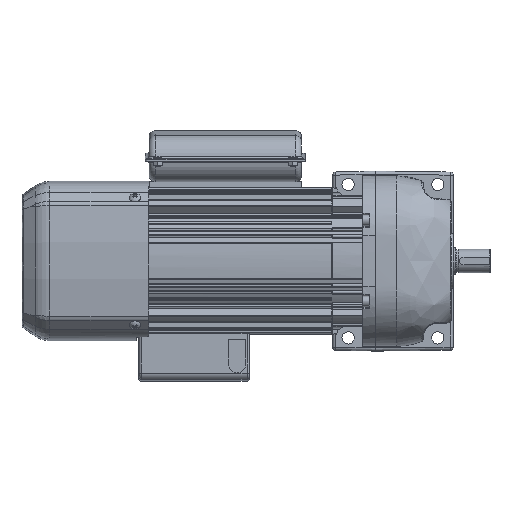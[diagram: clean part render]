
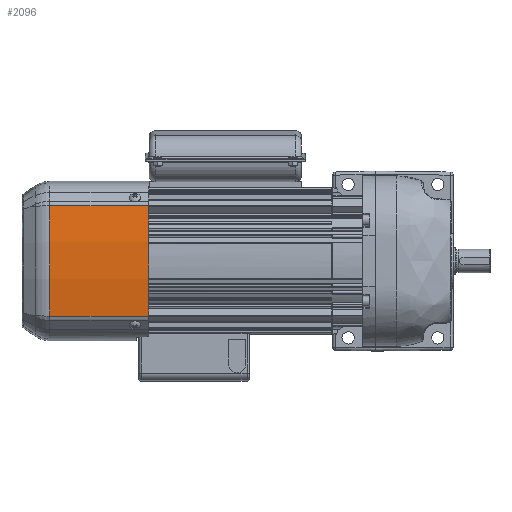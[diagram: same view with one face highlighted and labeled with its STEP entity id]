
A CAD part, top view. The second image highlights one B-rep face of the part: STEP entity #2096.
In plain terms, the highlighted cylindrical face has radius 300.6 mm (diameter 601.2 mm), a partial arc.
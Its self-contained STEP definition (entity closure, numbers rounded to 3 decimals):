
#2096 = ADVANCED_FACE( '', ( #5896 ), #5897, .T. );
#5896 = FACE_OUTER_BOUND( '', #12138, .T. );
#5897 = CYLINDRICAL_SURFACE( '', #12139, 300.6 );
#12138 = EDGE_LOOP( '', ( #24891, #24892, #24893, #24894 ) );
#12139 = AXIS2_PLACEMENT_3D( '', #24895, #24896, #24897 );
#24891 = ORIENTED_EDGE( '', *, *, #39937, .T. );
#24892 = ORIENTED_EDGE( '', *, *, #39938, .T. );
#24893 = ORIENTED_EDGE( '', *, *, #39939, .F. );
#24894 = ORIENTED_EDGE( '', *, *, #39940, .F. );
#24895 = CARTESIAN_POINT( '', ( -40.449, 47., -258.6 ) );
#24896 = DIRECTION( '', ( 1., 0., 0. ) );
#24897 = DIRECTION( '', ( 0., 0., -1. ) );
#39937 = EDGE_CURVE( '', #46679, #46680, #46681, .T. );
#39938 = EDGE_CURVE( '', #46680, #46682, #46683, .F. );
#39939 = EDGE_CURVE( '', #46684, #46682, #46685, .T. );
#39940 = EDGE_CURVE( '', #46679, #46684, #46686, .T. );
#46679 = VERTEX_POINT( '', #56503 );
#46680 = VERTEX_POINT( '', #56504 );
#46681 = LINE( '', #56505, #56506 );
#46682 = VERTEX_POINT( '', #56507 );
#46683 = CIRCLE( '', #56508, 300.6 );
#46684 = VERTEX_POINT( '', #56509 );
#46685 = LINE( '', #56510, #56511 );
#46686 = CIRCLE( '', #56512, 300.6 );
#56503 = CARTESIAN_POINT( '', ( -40.449, 91.935, 38.622 ) );
#56504 = CARTESIAN_POINT( '', ( -120.954, 91.935, 38.622 ) );
#56505 = CARTESIAN_POINT( '', ( -40.449, 91.935, 38.622 ) );
#56506 = VECTOR( '', #70512, 1000. );
#56507 = CARTESIAN_POINT( '', ( -120.954, 2.065, 38.622 ) );
#56508 = AXIS2_PLACEMENT_3D( '', #70513, #70514, #70515 );
#56509 = CARTESIAN_POINT( '', ( -40.449, 2.065, 38.622 ) );
#56510 = CARTESIAN_POINT( '', ( -40.449, 2.065, 38.622 ) );
#56511 = VECTOR( '', #70516, 1000. );
#56512 = AXIS2_PLACEMENT_3D( '', #70517, #70518, #70519 );
#70512 = DIRECTION( '', ( -1., 0., 0. ) );
#70513 = CARTESIAN_POINT( '', ( -120.954, 47., -258.6 ) );
#70514 = DIRECTION( '', ( -1., 0., 0. ) );
#70515 = DIRECTION( '', ( 0., 0., -1. ) );
#70516 = DIRECTION( '', ( -1., 0., 0. ) );
#70517 = CARTESIAN_POINT( '', ( -40.449, 47., -258.6 ) );
#70518 = DIRECTION( '', ( 1., 0., 0. ) );
#70519 = DIRECTION( '', ( 0., -1., 0. ) );
